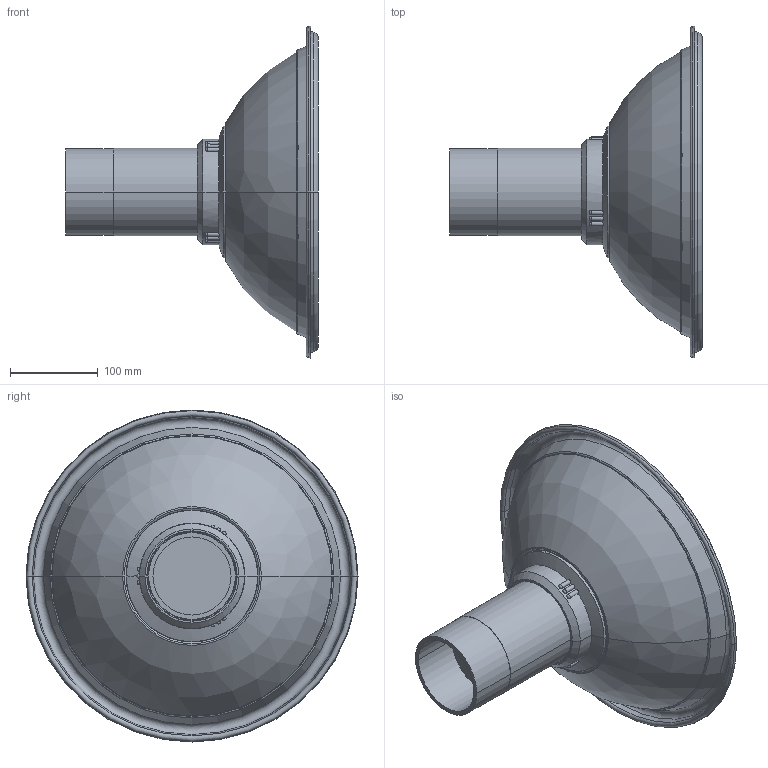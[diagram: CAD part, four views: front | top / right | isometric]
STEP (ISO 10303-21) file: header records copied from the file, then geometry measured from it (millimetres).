
FILE_DESCRIPTION((''),'2;1');
FILE_NAME('MEK351-100','2015-12-02T',('Tomas Bellgran'),(''),'PRO/ENGINEER BY PARAMETRIC TECHNOLOGY CORPORATION, 2013410','PRO/ENGINEER BY PARAMETRIC TECHNOLOGY CORPORATION, 2013410','');
FILE_SCHEMA(('AUTOMOTIVE_DESIGN { 1 0 10303 214 1 1 1 1 }'));
Length unit declared in the file: millimetre
Products named in the file (6): 105-878_AF0; 117041_AF0; 117016; 116476; 117031; MEK351-100
Assembly tree (5 placements, depth 3):
  MEK351-100
    117016
      105-878_AF0
      117041_AF0
    116476
    117031
Bounding box: 287.99 x 378.56 x 378.56 mm (x, y, z)
Volume: 1349907.2 mm3; surface area: 473489.2 mm2
Topology: 4 solids, 4 shells, 135 faces, 296 edges, 170 vertices
Faces by surface type: cone 30, bspline 26, torus 26, cylinder 23, plane 18, sphere 12
Entity records: 6628 total; most frequent: CARTESIAN_POINT 1785, DIRECTION 716, ORIENTED_EDGE 592, AXIS2_PLACEMENT_3D 336, EDGE_CURVE 296, PROPERTY_DEFINITION 237, REPRESENTATION 233, PROPERTY_DEFINITION_REPRESENTATION 233
